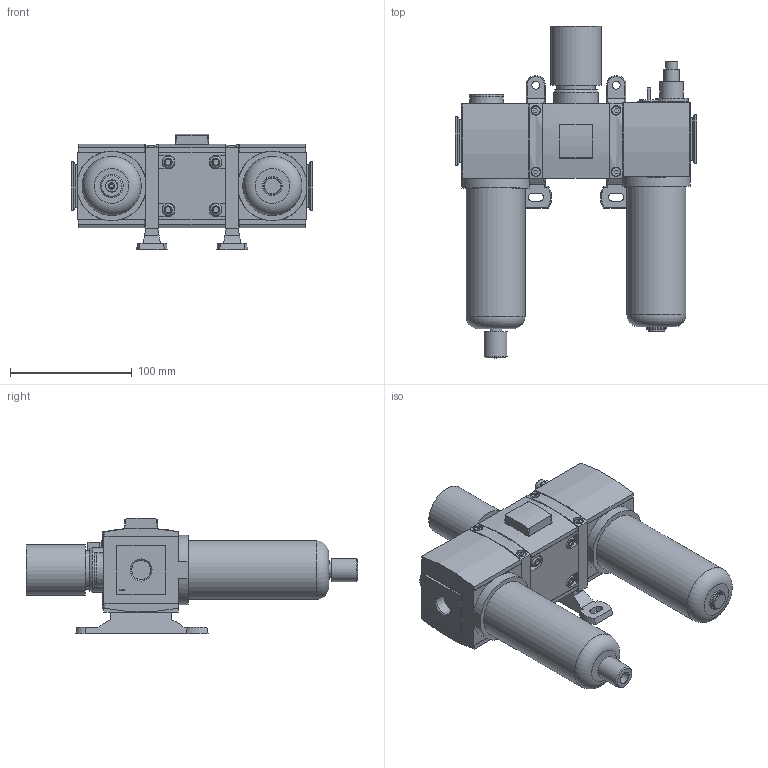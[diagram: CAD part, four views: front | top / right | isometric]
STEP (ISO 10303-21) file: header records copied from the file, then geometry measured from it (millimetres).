
FILE_DESCRIPTION( ( 'STEP AP214' ), '1' );
FILE_NAME( 'p:/temp/worker_275/temp/exporttempdir_5452_475_s0SzG/format_0/07352020-190234_gen_14256.stp', '2020-02-07T18:35:35', ( '' ), ( '' ), ' ', 'PARTsolutions', ' ' );
FILE_SCHEMA( ( 'AUTOMOTIVE_DESIGN { 1 0 10303 214 1 1 1 1 }' ) );
Length unit declared in the file: millimetre
Products named in the file (16): 07352020-190234_gen_14256; _431787-002-F-A00PJBN1; _440511-008-P; _440512-002-N; _433441-001-R-0; _439851-002; _G652ASLA0B00A00_LS; _437794-002-F-HGL; _433441-001-R-H; _438047-009; _433879-001; _433894-001; _440508-001-STANDARD; _433456-014-F-KA00; _433441-002-SV-0; _440512-001_plug
Assembly tree (20 placements, depth 2):
  07352020-190234_gen_14256
    _431787-002-F-A00PJBN1
    _440511-008-P  x2
    _440512-002-N
    _433441-001-R-0  x3
    _439851-002
    _G652ASLA0B00A00_LS  x2
    _437794-002-F-HGL
    _433441-001-R-H
    _438047-009
    _433879-001
    _433894-001
    _440508-001-STANDARD
    _433456-014-F-KA00
    _433441-002-SV-0  x2
    _440512-001_plug
Bounding box: 198 x 272.52 x 94.91 mm (x, y, z)
Volume: 1378195.5 mm3; surface area: 230690.9 mm2
Topology: 20 solids, 20 shells, 690 faces, 1624 edges, 1054 vertices
Faces by surface type: plane 531, cylinder 98, cone 47, torus 13, sphere 1
Full cylindrical faces by diameter (mm): 2.8 x2, 3 x2, 5 x1, 5.6 x8, 6.3 x8, 6.5 x2, 7 x4, 7.8 x4, 9.728 x2, 10 x9, 13 x1, 13.5 x1, 15.875 x1, 16 x1, 19 x1, 19.2 x1, 19.4 x1, 27 x1, 28.5 x1, 31.6 x1, 37 x1, 41.845 x1, 48.5 x2
Entity records: 22105 total; most frequent: CARTESIAN_POINT 3218, DIRECTION 2803, ORIENTED_EDGE 2640, EDGE_CURVE 1320, LINE 1057, VECTOR 1057, VERTEX_POINT 916, AXIS2_PLACEMENT_3D 873
